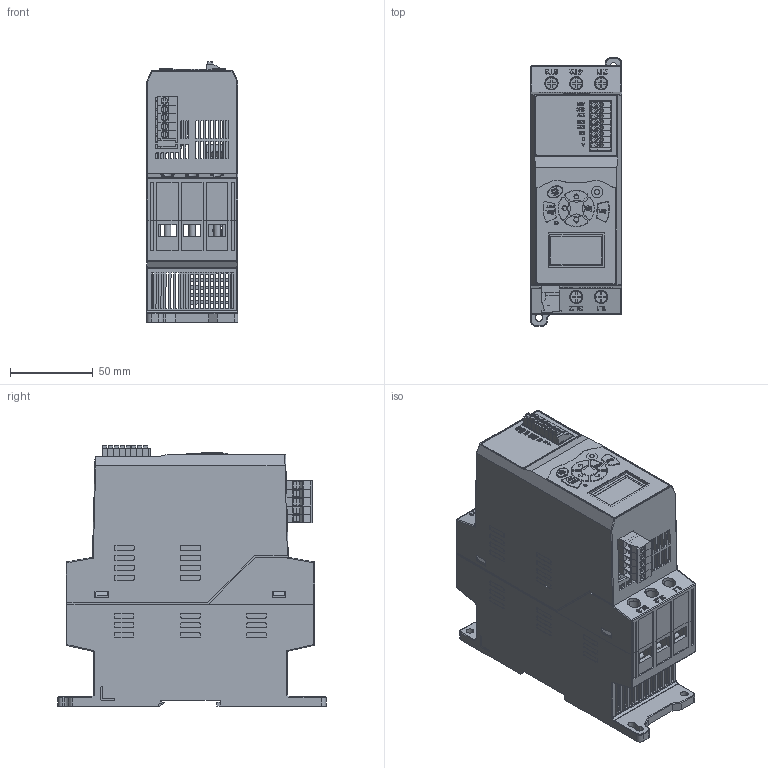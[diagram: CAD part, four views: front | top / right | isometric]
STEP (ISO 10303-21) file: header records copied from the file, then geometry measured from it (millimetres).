
FILE_DESCRIPTION(('FreeCAD Model'),'2;1');
FILE_NAME('Open CASCADE Shape Model','2026-06-17T13:17:10',(''),(''), 'Open CASCADE STEP processor 7.8','FreeCAD','Unknown');
FILE_SCHEMA(('AUTOMOTIVE_DESIGN { 1 0 10303 214 1 1 1 1 }'));
Length unit declared in the file: millimetre
Products named in the file (58): PS20-FRAME-A; _--20004; _--20002; _--20003; A; B; IN1; IN2; 12V; A01; IN3; GND; BASE; Led; ESC; Boão SET; Botao ESC; Seta Cima; Seta Baixo; Seta Direita; Base IHM; 8800-11-11-25-2_ASM_ASM_1_ASM; _-11-0001_ASM_39_ASM_1_ASM; 8800-11-PCB-1_ASM_31_ASM_1_ASM; 8800-11-PCB-1_1_1; _3-10001_1_1; 8800-11-000_1_1; 8800-508-5P-00_1_1; 8800-11-PCB-200_ASM_1_ASM_1_ASM; 8800-11-PCB-2_1_1; 8800-11--12864COG000_1_1; _6-6-80001_4_1; _3D5-60001_ASM_6_ASM_1_ASM; _1D5-000001_4_1; _3D5-000001_3_1; _3D-000001_4_1; _RJ450001_6_1; 8800-11-PCB00_ASM_15_ASM_1_ASM; 8800-11-PCB00_22_1; _100A00_1_ASM_1_ASM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
Assembly tree (86 placements, depth 7):
  PS20-FRAME-A
    _--20004
      _--20002
      _--20003
      A
      B
      IN1
      IN2
      12V
      A01
      IN3
      GND
      BASE
      Led
      ESC
      Boão SET
      Botao ESC
      Seta Cima
      Seta Baixo
      Seta Direita
      Base IHM
    8800-11-11-25-2_ASM_ASM_1_ASM
      _-11-0001_ASM_39_ASM_1_ASM
        8800-11-PCB-1_ASM_31_ASM_1_ASM
          8800-11-PCB-1_1_1
          _3-10001_1_1
          8800-11-000_1_1
          8800-508-5P-00_1_1
          8800-11-PCB-200_ASM_1_ASM_1_ASM
            8800-11-PCB-2_1_1
            8800-11--12864COG000_1_1
            _6-6-80001_4_1  x8
            _3D5-60001_ASM_6_ASM_1_ASM
              _1D5-000001_4_1
              _3D5-000001_3_1  x3
              _3D-000001_4_1  x3
            _RJ450001_6_1
            _3D5-000001_3_1
            _3D-000001_4_1
          8800-11-PCB00_ASM_15_ASM_1_ASM
            8800-11-PCB00_22_1
            _100A00_1_ASM_1_ASM
              _100A00_1_1_1
              _100A00_1_2_1
            _100A00_1_ASM_1_ASM001
              _100A00_1_1_1
              _100A00_1_2_1
            MCI04422-60A000_1_1  x6
          PL2D5B-5-508-05_1_1  x5
          _-11-0002_1_1  x6
          _-11-0003_47_1
          8800-11-W00_1_1
          8800-11--100_1_1
        8800-11-11-24_ASM_1_ASM_1_ASM_1_ASM
          _-11-0001_ASM_32_ASM_1_ASM_1_AS_ASM
            8800-11-0_29_1_1_1
            8800-11-0_59_1_1_1
            8800-0001_1_1_1_1
    4028-FAN_1__ASM
      ASM0001_ASM_1_ASM
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Bounding box: 55.3 x 162 x 157.14 mm (x, y, z)
Volume: 317558.1 mm3; surface area: 324038.9 mm2
Topology: 56 solids, 100 shells, 6732 faces, 19434 edges, 12997 vertices
Faces by surface type: plane 4670, cylinder 1804, torus 107, cone 103, bspline 36, sphere 10, extrusion 2
Entity records: 187844 total; most frequent: CARTESIAN_POINT 40550, ORIENTED_EDGE 30440, DIRECTION 28112, EDGE_CURVE 15751, VECTOR 12150, LINE 12148, VERTEX_POINT 10544, AXIS2_PLACEMENT_3D 7981
